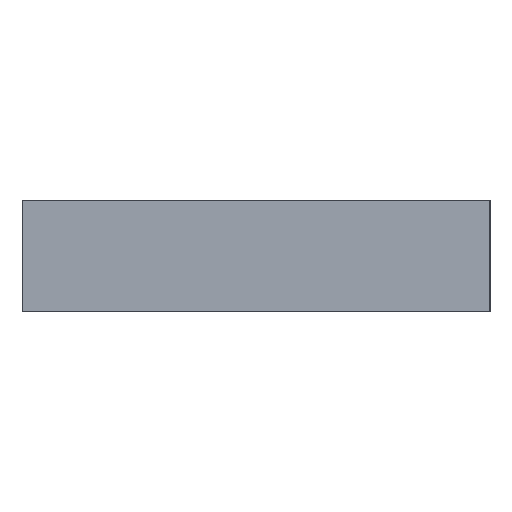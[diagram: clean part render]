
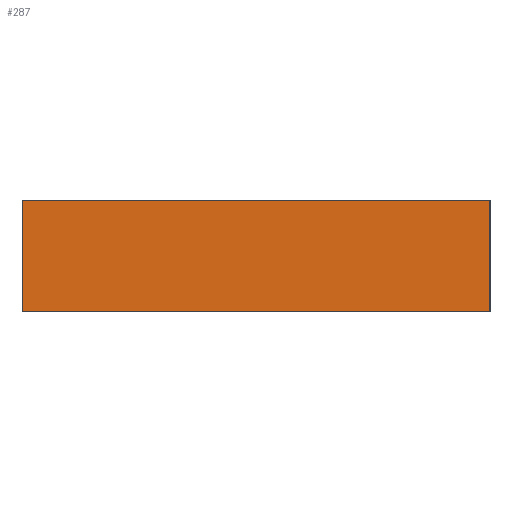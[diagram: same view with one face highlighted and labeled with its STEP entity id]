
A CAD part, left-side view. The second image highlights one B-rep face of the part: STEP entity #287.
In plain terms, the highlighted planar face has unit normal (-1, 0, 0).
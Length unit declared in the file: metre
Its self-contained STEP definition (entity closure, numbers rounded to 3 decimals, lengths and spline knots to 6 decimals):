
#55=ORIENTED_EDGE('',*,*,#122,.T.);
#56=ORIENTED_EDGE('',*,*,#123,.F.);
#57=ORIENTED_EDGE('',*,*,#124,.F.);
#58=ORIENTED_EDGE('',*,*,#120,.T.);
#120=EDGE_CURVE('',#150,#149,#184,.T.);
#122=EDGE_CURVE('',#149,#151,#186,.T.);
#123=EDGE_CURVE('',#152,#151,#187,.T.);
#124=EDGE_CURVE('',#150,#152,#188,.T.);
#149=VERTEX_POINT('',#454);
#150=VERTEX_POINT('',#456);
#151=VERTEX_POINT('',#460);
#152=VERTEX_POINT('',#462);
#184=LINE('',#455,#220);
#186=LINE('',#459,#222);
#187=LINE('',#461,#223);
#188=LINE('',#463,#224);
#220=VECTOR('',#373,1.);
#222=VECTOR('',#377,1.);
#223=VECTOR('',#378,1.);
#224=VECTOR('',#379,1.);
#237=EDGE_LOOP('',(#55,#56,#57,#58));
#255=FACE_BOUND('',#237,.T.);
#273=PLANE('',#315);
#287=ADVANCED_FACE('',(#255),#273,.F.);
#315=AXIS2_PLACEMENT_3D('',#458,#375,#376);
#373=DIRECTION('',(0.,0.,-1.));
#375=DIRECTION('',(1.,0.,0.));
#376=DIRECTION('',(0.,0.,-1.));
#377=DIRECTION('',(0.,-1.,0.));
#378=DIRECTION('',(0.,0.,-1.));
#379=DIRECTION('',(0.,-1.,0.));
#454=CARTESIAN_POINT('',(-0.0865,0.0325,-0.011));
#455=CARTESIAN_POINT('',(-0.0865,0.0325,-0.0091));
#456=CARTESIAN_POINT('',(-0.0865,0.0325,-0.0091));
#458=CARTESIAN_POINT('',(-0.0865,0.0285,-0.0091));
#459=CARTESIAN_POINT('',(-0.0865,0.0285,-0.011));
#460=CARTESIAN_POINT('',(-0.0865,0.0245,-0.011));
#461=CARTESIAN_POINT('',(-0.0865,0.0245,-0.0091));
#462=CARTESIAN_POINT('',(-0.0865,0.0245,-0.0091));
#463=CARTESIAN_POINT('',(-0.0865,0.0285,-0.0091));
